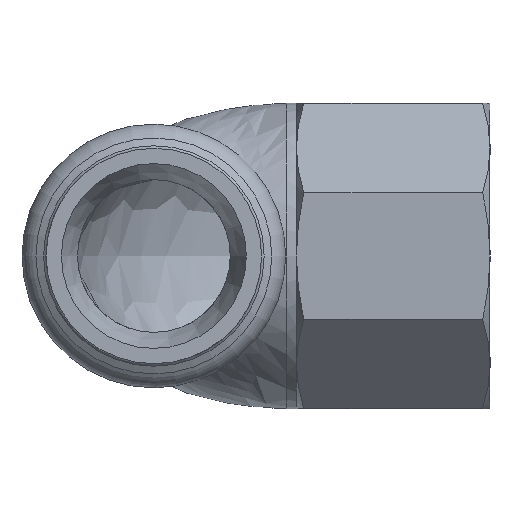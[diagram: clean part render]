
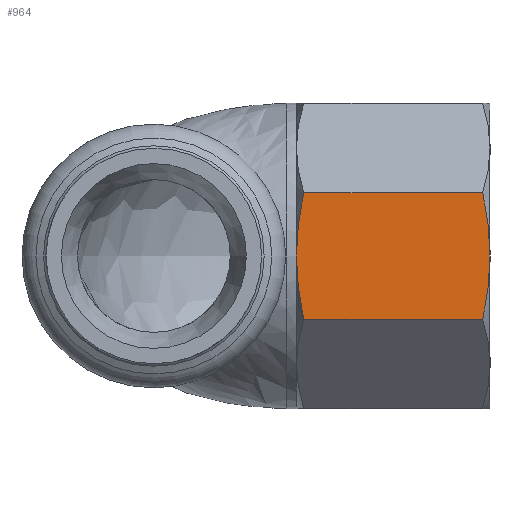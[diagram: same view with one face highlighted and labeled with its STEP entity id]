
A CAD part, left-side view. The second image highlights one B-rep face of the part: STEP entity #964.
In plain terms, the highlighted planar face has unit normal (-1, 0, 0).
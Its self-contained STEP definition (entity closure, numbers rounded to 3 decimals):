
#112=CARTESIAN_POINT('',(-15.,-32.286,6.213));
#113=VERTEX_POINT('',#112);
#129=CARTESIAN_POINT('',(-15.,-33.,0.));
#130=VERTEX_POINT('',#129);
#131=CARTESIAN_POINT('',(-15.,-33.,0.));
#132=CARTESIAN_POINT('',(-15.,-33.,2.984));
#133=CARTESIAN_POINT('',(-15.,-32.286,6.213));
#141=(BOUNDED_CURVE()B_SPLINE_CURVE(2,(#131,#132,#133),.UNSPECIFIED.,.F.,.U.)B_SPLINE_CURVE_WITH_KNOTS((3,3),(1.392,2.084),.UNSPECIFIED.)CURVE()GEOMETRIC_REPRESENTATION_ITEM()RATIONAL_B_SPLINE_CURVE((1.0,1.041,1.042))REPRESENTATION_ITEM(''));
#142=EDGE_CURVE('',#130,#113,#141,.T.);
#429=CARTESIAN_POINT('',(-15.,-32.286,-6.213));
#430=VERTEX_POINT('',#429);
#451=CARTESIAN_POINT('',(-15.,-32.286,-6.213));
#452=CARTESIAN_POINT('',(-15.,-33.,-2.984));
#453=CARTESIAN_POINT('',(-15.,-33.,0.));
#461=(BOUNDED_CURVE()B_SPLINE_CURVE(2,(#451,#452,#453),.UNSPECIFIED.,.F.,.U.)B_SPLINE_CURVE_WITH_KNOTS((3,3),(0.699,1.392),.UNSPECIFIED.)CURVE()GEOMETRIC_REPRESENTATION_ITEM()RATIONAL_B_SPLINE_CURVE((1.042,1.041,1.0))REPRESENTATION_ITEM(''));
#462=EDGE_CURVE('',#430,#130,#461,.T.);
#519=CARTESIAN_POINT('',(-15.,-14.714,6.213));
#520=VERTEX_POINT('',#519);
#521=CARTESIAN_POINT('',(-15.,-14.,0.));
#522=VERTEX_POINT('',#521);
#523=CARTESIAN_POINT('',(-15.,-14.714,6.213));
#524=CARTESIAN_POINT('',(-15.,-14.,2.984));
#525=CARTESIAN_POINT('',(-15.,-14.,0.));
#533=(BOUNDED_CURVE()B_SPLINE_CURVE(2,(#523,#524,#525),.UNSPECIFIED.,.F.,.U.)B_SPLINE_CURVE_WITH_KNOTS((3,3),(0.778,1.479),.UNSPECIFIED.)CURVE()GEOMETRIC_REPRESENTATION_ITEM()RATIONAL_B_SPLINE_CURVE((1.046,1.043,1.0))REPRESENTATION_ITEM(''));
#534=EDGE_CURVE('',#520,#522,#533,.T.);
#564=CARTESIAN_POINT('',(-15.,-14.714,-6.213));
#565=VERTEX_POINT('',#564);
#581=CARTESIAN_POINT('',(-15.,-14.,0.));
#582=CARTESIAN_POINT('',(-15.,-14.,-2.984));
#583=CARTESIAN_POINT('',(-15.,-14.714,-6.213));
#591=(BOUNDED_CURVE()B_SPLINE_CURVE(2,(#581,#582,#583),.UNSPECIFIED.,.F.,.U.)B_SPLINE_CURVE_WITH_KNOTS((3,3),(1.479,2.18),.UNSPECIFIED.)CURVE()GEOMETRIC_REPRESENTATION_ITEM()RATIONAL_B_SPLINE_CURVE((1.0,1.043,1.046))REPRESENTATION_ITEM(''));
#592=EDGE_CURVE('',#522,#565,#591,.T.);
#858=CARTESIAN_POINT('',(-15.,-32.286,-6.213));
#859=DIRECTION('',(0.0,1.0,0.0));
#860=VECTOR('',#859,17.573);
#861=LINE('',#858,#860);
#862=EDGE_CURVE('',#430,#565,#861,.T.);
#941=CARTESIAN_POINT('',(-15.,-32.286,6.213));
#942=DIRECTION('',(0.0,1.0,0.0));
#943=VECTOR('',#942,17.573);
#944=LINE('',#941,#943);
#945=EDGE_CURVE('',#113,#520,#944,.T.);
#951=CARTESIAN_POINT('',(-15.,-33.,6.213));
#952=DIRECTION('',(-1.0,0.0,0.0));
#953=DIRECTION('',(0.0,0.0,1.0));
#954=AXIS2_PLACEMENT_3D('',#951,#952,#953);
#955=PLANE('',#954);
#956=ORIENTED_EDGE('',*,*,#142,.T.);
#957=ORIENTED_EDGE('',*,*,#945,.T.);
#958=ORIENTED_EDGE('',*,*,#534,.T.);
#959=ORIENTED_EDGE('',*,*,#592,.T.);
#960=ORIENTED_EDGE('',*,*,#862,.F.);
#961=ORIENTED_EDGE('',*,*,#462,.T.);
#962=EDGE_LOOP('',(#956,#957,#958,#959,#960,#961));
#963=FACE_OUTER_BOUND('',#962,.T.);
#964=ADVANCED_FACE('',(#963),#955,.T.);
